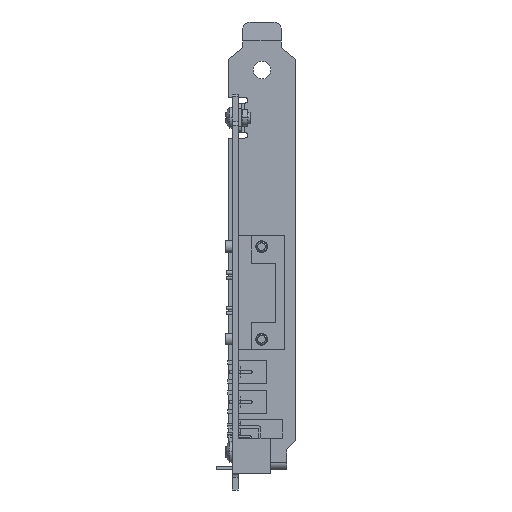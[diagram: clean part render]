
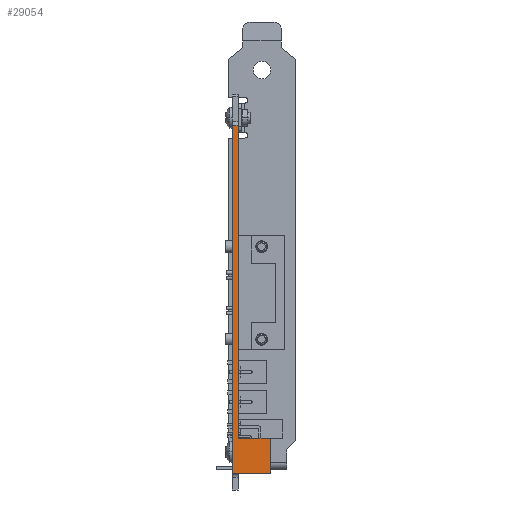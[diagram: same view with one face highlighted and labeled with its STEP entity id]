
A CAD part, front view. The second image highlights one B-rep face of the part: STEP entity #29054.
In plain terms, the highlighted planar face has unit normal (0, -1, 0).
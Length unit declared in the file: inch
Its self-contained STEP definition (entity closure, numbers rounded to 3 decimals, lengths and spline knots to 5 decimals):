
#368=DIRECTION('',(0.,0.,-1.));
#369=VECTOR('',#368,3.325);
#370=CARTESIAN_POINT('',(0.062,-6.305,-0.135));
#371=LINE('',#370,#369);
#4910=DIRECTION('',(0.,0.,-1.));
#4911=VECTOR('',#4910,3.695);
#4912=CARTESIAN_POINT('',(0.,-6.305,-0.135));
#4913=LINE('',#4912,#4911);
#6080=DIRECTION('',(-1.,0.,0.));
#6081=VECTOR('',#6080,0.402);
#6082=CARTESIAN_POINT('',(0.402,-6.305,-3.83));
#6083=LINE('',#6082,#6081);
#6084=DIRECTION('',(1.,0.,0.));
#6085=VECTOR('',#6084,0.062);
#6086=CARTESIAN_POINT('',(0.,-6.305,-0.135));
#6087=LINE('',#6086,#6085);
#6096=DIRECTION('',(1.,0.,0.));
#6097=VECTOR('',#6096,0.34);
#6098=CARTESIAN_POINT('',(0.062,-6.305,-3.46));
#6099=LINE('',#6098,#6097);
#6660=DIRECTION('',(0.,0.,1.));
#6661=VECTOR('',#6660,0.37);
#6662=CARTESIAN_POINT('',(0.402,-6.305,-3.83));
#6663=LINE('',#6662,#6661);
#17519=CARTESIAN_POINT('',(0.,-6.305,-0.135));
#17520=VERTEX_POINT('',#17519);
#17539=CARTESIAN_POINT('',(0.062,-6.305,-0.135));
#17540=VERTEX_POINT('',#17539);
#17625=CARTESIAN_POINT('',(0.,-6.305,-3.83));
#17626=VERTEX_POINT('',#17625);
#17943=CARTESIAN_POINT('',(0.402,-6.305,-3.46));
#17945=VERTEX_POINT('',#17943);
#17947=CARTESIAN_POINT('',(0.402,-6.305,-3.83));
#17948=VERTEX_POINT('',#17947);
#19823=CARTESIAN_POINT('',(0.062,-6.305,-3.46));
#19825=VERTEX_POINT('',#19823);
#29038=CARTESIAN_POINT('',(0.,-6.305,-0.135));
#29039=DIRECTION('',(0.,-1.,0.));
#29040=DIRECTION('',(0.,0.,-1.));
#29041=AXIS2_PLACEMENT_3D('',#29038,#29039,#29040);
#29042=PLANE('',#29041);
#29043=ORIENTED_EDGE('',*,*,#23017,.T.);
#29045=ORIENTED_EDGE('',*,*,#29044,.T.);
#29047=ORIENTED_EDGE('',*,*,#29046,.F.);
#29048=ORIENTED_EDGE('',*,*,#29009,.T.);
#29049=ORIENTED_EDGE('',*,*,#28315,.F.);
#29051=ORIENTED_EDGE('',*,*,#29050,.T.);
#29052=EDGE_LOOP('',(#29043,#29045,#29047,#29048,#29049,#29051));
#29053=FACE_OUTER_BOUND('',#29052,.F.);
#29054=ADVANCED_FACE('',(#29053),#29042,.T.);
#23017=EDGE_CURVE('',#17540,#19825,#371,.T.);
#28315=EDGE_CURVE('',#17520,#17626,#4913,.T.);
#29009=EDGE_CURVE('',#17948,#17626,#6083,.T.);
#29044=EDGE_CURVE('',#19825,#17945,#6099,.T.);
#29046=EDGE_CURVE('',#17948,#17945,#6663,.T.);
#29050=EDGE_CURVE('',#17520,#17540,#6087,.T.);
